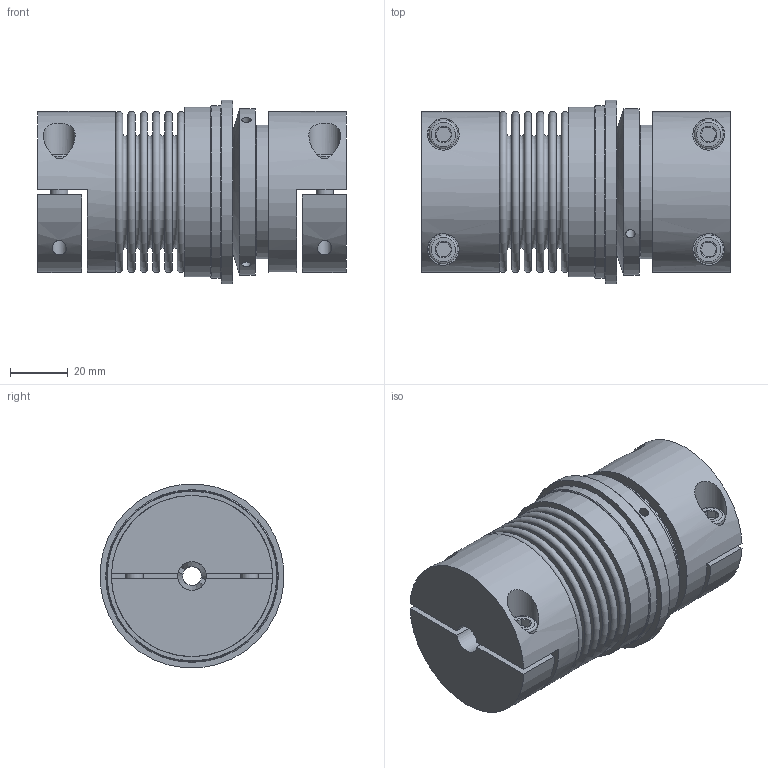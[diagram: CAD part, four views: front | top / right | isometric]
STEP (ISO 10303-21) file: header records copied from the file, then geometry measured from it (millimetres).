
FILE_DESCRIPTION( ( 'KBE1/14 - N7H8 - N14H7 - 98 Sh' ), '1' );
FILE_NAME( 'K:/Konstruktion/Fertigungszeichnungen/Überlastkupplung/KBK-B/KBK-BHH/30/KBK-BHH-30-107.stp', '14.12.2015', ( 'KBK-Antriebstechnik' ), ( 'KBK-Antriebstechnik' ), 'PSStep 16.0.42', 'Solid Edge St6', ' ' );
FILE_SCHEMA( ( 'AUTOMOTIVE_DESIGN { 1 0 10303 214 1 1 1 1 }' ) );
Length unit declared in the file: millimetre
Products named in the file (29): Druckring 30_0; a_25_0; inafag_61805-2rsr_cap5mpnqnhw4axxdh3oiyjea4; inafag_61805-2rsr_cap5mpnqnhw4axxdh3oiyjea4_01; inafag_61805-2rsr_cap5mpnqnhw4axxdh3oiyjea4_02; inafag_61805-2rsr_cap5mpnqnhw4axxdh3oiyjea4_03; inafag_61805-2rsr_cap5mpnqnhw4axxdh3oiyjea4_04; inafag_61805-2rsr_cap5mpnqnhw4axxdh3oiyjea4_05; inafag_61805-2rsr_cap5mpnqnhw4axxdh3oiyjea4_06; inafag_61805-2rsr_cap5mpnqnhw4axxdh3oiyjea4_07; inafag_61805-2rsr_cap5mpnqnhw4axxdh3oiyjea4_08; inafag_61805-2rsr_cap5mpnqnhw4axxdh3oiyjea4_09; Stellring 30_0; L-P-30 Grundkörper_0-oa1; L-P-30 Grundkörper_0-oa0; KB4H8-30-oa4; KN4H-30-oa2; Spreiznabe KB8-30-oa3; KBK-B-H-30-oa5; ISO EN DIN 4762 M6x20; Flansch BK30; Assem1; KN4H-30-oa6; BL30_Standard_0
Assembly tree (31 placements, depth 4):
  Assem1
    KN4H-30-oa6
    KN4H-30-oa6
    ISO EN DIN 4762 M6x20  x2
    BL30_Standard_0
    KBK-B-H-30-oa5
      ISO EN DIN 4762 M6x20  x2
      Flansch BK30
      L-P-30 Grundkörper_0-oa1
        L-P-30 Grundkörper_0-oa0
      Stellring 30_0
        Stellring 30_0
      Druckring 30_0
        Druckring 30_0
      a_25_0
        a_25_0
      KB4H8-30-oa4
        KN4H-30-oa2
        KN4H-30-oa2
        Spreiznabe KB8-30-oa3
      inafag_61805-2rsr_cap5mpnqnhw4axxdh3oiyjea4
        inafag_61805-2rsr_cap5mpnqnhw4axxdh3oiyjea4_01
        inafag_61805-2rsr_cap5mpnqnhw4axxdh3oiyjea4_02
        inafag_61805-2rsr_cap5mpnqnhw4axxdh3oiyjea4_03
        inafag_61805-2rsr_cap5mpnqnhw4axxdh3oiyjea4_04
        inafag_61805-2rsr_cap5mpnqnhw4axxdh3oiyjea4_05
        inafag_61805-2rsr_cap5mpnqnhw4axxdh3oiyjea4_06
        inafag_61805-2rsr_cap5mpnqnhw4axxdh3oiyjea4_07
        inafag_61805-2rsr_cap5mpnqnhw4axxdh3oiyjea4_08
        inafag_61805-2rsr_cap5mpnqnhw4axxdh3oiyjea4_09
Bounding box: 107.25 x 63.81 x 63.81 mm (x, y, z)
Volume: 188357.1 mm3; surface area: 113856 mm2
Topology: 24 solids, 24 shells, 331 faces, 665 edges, 424 vertices
Faces by surface type: plane 145, cylinder 100, cone 43, torus 39, sphere 4
Full cylindrical faces by diameter (mm): 2 x2, 3.242 x3, 4.2 x4, 4.917 x4, 5 x7, 6 x8, 6.4 x4, 6.5 x1, 10 x5, 11 x5, 20 x1, 23.9 x1, 25 x3, 29 x4, 29.69 x1, 30 x1, 32.91 x1, 33.6 x2, 34 x1, 34.2 x4, 37 x2, 38 x2, 39 x1, 40 x1, 45.7 x1, 46.5 x3, 46.6 x2, 47.3 x2, 52 x1, 56 x2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
Entity records: 9264 total; most frequent: CARTESIAN_POINT 2329, DIRECTION 1152, ORIENTED_EDGE 720, AXIS2_PLACEMENT_3D 529, EDGE_LOOP 472, EDGE_CURVE 360, FACE_OUTER_BOUND 356, VERTEX_POINT 326
